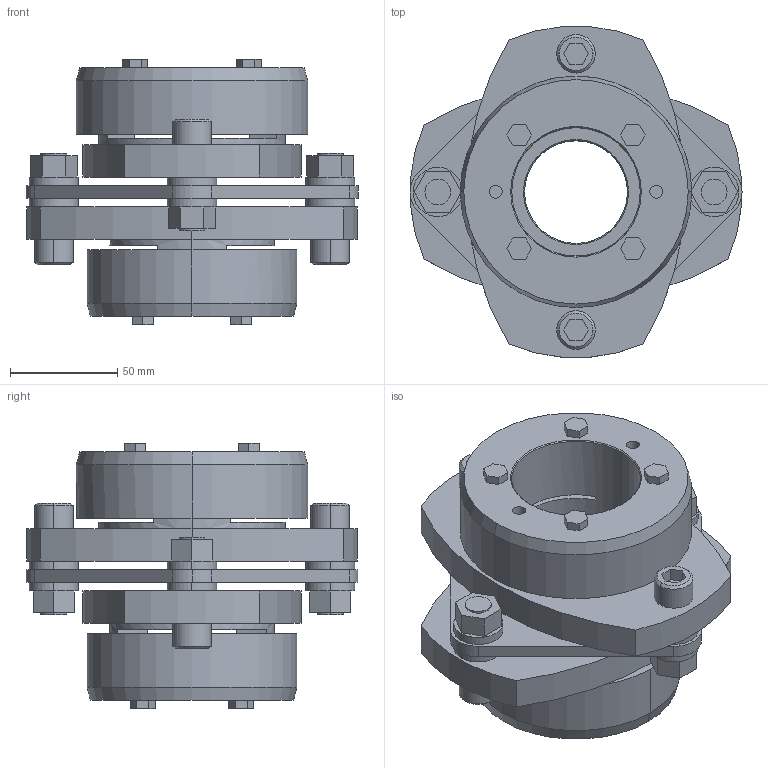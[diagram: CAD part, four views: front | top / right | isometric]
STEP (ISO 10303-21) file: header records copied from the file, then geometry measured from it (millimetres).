
FILE_DESCRIPTION((''),'2;1');
FILE_NAME('LCS-155T7-48×60.stp','2015-10-28T09:29:46',(''),(''),'AutoCAD STEP 2000i','AutoCAD 2000i',', , ');
FILE_SCHEMA(('CONFIG_CONTROL_DESIGN'));
Length unit declared in the file: millimetre
Products named in the file (9): LCS-155T7-50×60; 忣兜1; LC155T7-T060; LC155T7-T055; LC155T7-T050-1; LC155T7-T050; LC155T7-T045-1; LC155T7-T045; LCS155-ITA
Assembly tree (8 placements, depth 2):
  LCS-155T7-50×60
    忣兜1
    LC155T7-T060
    LC155T7-T055
    LC155T7-T050-1
    LC155T7-T050
    LC155T7-T045-1
    LC155T7-T045
    LCS155-ITA
Bounding box: 155 x 154.9 x 124 mm (x, y, z)
Volume: 821705.9 mm3; surface area: 146804.8 mm2
Topology: 1 solids, 1 shells, 246 faces, 606 edges, 398 vertices
Faces by surface type: plane 146, cylinder 80, cone 20
Entity records: 7527 total; most frequent: DIRECTION 1314, CARTESIAN_POINT 1259, ORIENTED_EDGE 1212, EDGE_CURVE 606, AXIS2_PLACEMENT_3D 453, VECTOR 408, LINE 408, VERTEX_POINT 398
